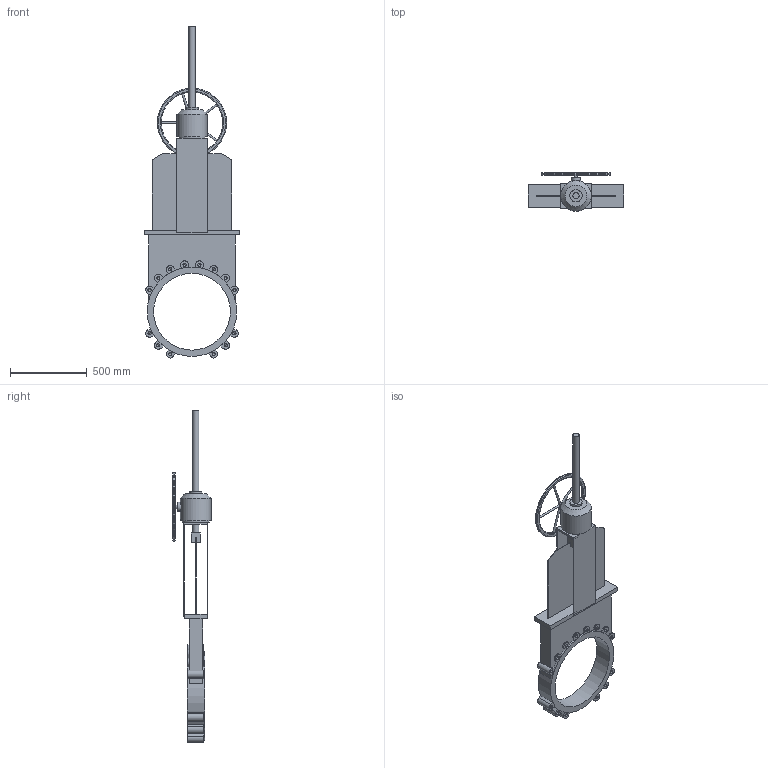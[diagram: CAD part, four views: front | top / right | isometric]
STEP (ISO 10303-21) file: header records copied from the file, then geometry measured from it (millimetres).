
FILE_DESCRIPTION(('STEP AP203'), '1');
FILE_NAME('Çàäâèæêà øèáåðíàÿ K21GV DN500 ðåäóêòîð+âûäâèæíîé øïèíäåëü', '', ('UNSPECIFIED'), ('UNSPECIFIED'), 'ASCON STEP Converter 1.6', 'ASCON Math Kernel', '');
FILE_SCHEMA(('CONFIG_CONTROL_DESIGN'));
Length unit declared in the file: millimetre
Bounding box: 620 x 250 x 2161.18 mm (x, y, z)
Volume: 35426742.5 mm3; surface area: 2568566.9 mm2
Topology: 1 solids, 1 shells, 230 faces, 626 edges, 401 vertices
Faces by surface type: plane 124, cylinder 69, cone 29, torus 8
Full cylindrical faces by diameter (mm): 12 x5, 20.752 x28, 24 x1, 40 x2, 60 x1, 80 x1, 175 x1, 200 x1, 450 x1, 500 x1, 582 x1
Entity records: 10881 total; most frequent: CARTESIAN_POINT 3616, DIRECTION 1132, ORIENTED_EDGE 1038, EDGE_CURVE 519, AXIS2_PLACEMENT_3D 425, VERTEX_POINT 371, EDGE_LOOP 325, LINE 282
